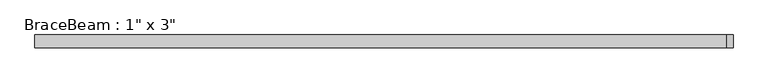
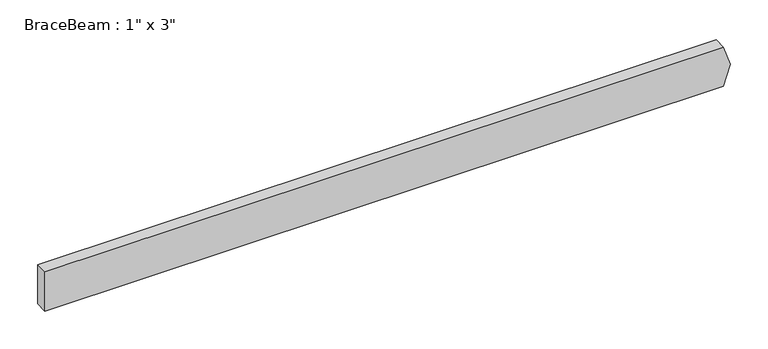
"""IFC4 building model written with IfcOpenShell, lengths in millimetres: beam geometry."""

from ifc_helpers import new_model, si_unit, frame, origin, place, context, project, spatial, polyline, outline, extrude, source, transform, mapped, element, save


def beam_8f42c894(model_context):
    return source(origin(), model_context, "Body", "SweptSolid", [
        extrude(outline(polyline([(31.75, -541.0548291), (-31.75, -541.0548291), (-31.75, 497.2936121), (0.0, 507.6564593), (31.75, 497.2936121), (31.75, -541.0548291)])), frame((0.0, -9.525, 0.0), z_axis=(0.0, 1.0, 0.0), x_axis=(0.0, 0.0, 1.0)), (0.0, 0.0, 1.0), 19.05),
    ])


if __name__ == "__main__":
    model = new_model("IFC4")
    model_context = context("Model", 3, world=origin())
    ifc_project = project(units=[si_unit("LENGTHUNIT", "METRE", prefix="MILLI")], contexts=[model_context])
    site = spatial("IfcSite", under=ifc_project)
    building = spatial("IfcBuilding", under=site)
    placement = place(None, origin())
    beam_shape = beam_8f42c894(model_context)
    element("IfcBeam", 1, ObjectType="BraceBeam : 1\" x 3\"", at=placement, inside=building, context=model_context, shape_type="MappedRepresentation", body=[
        mapped(beam_shape, transform((0.0, 0.0, 0.0), x_axis=(1.0, 0.0, 0.0), y_axis=(0.0, 1.0, 0.0), z_axis=(0.0, 0.0, 1.0))),
    ])
    save(model, "model.ifc")
